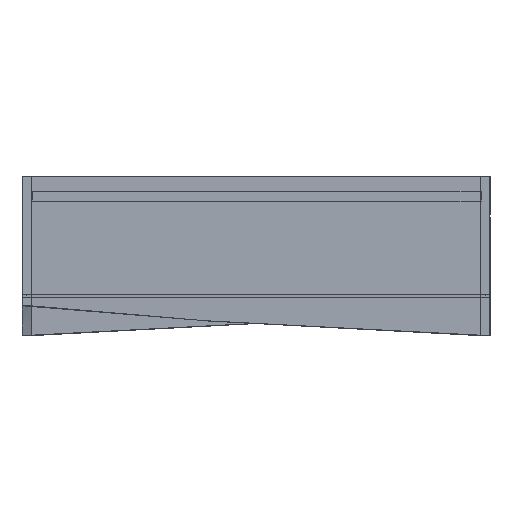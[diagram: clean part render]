
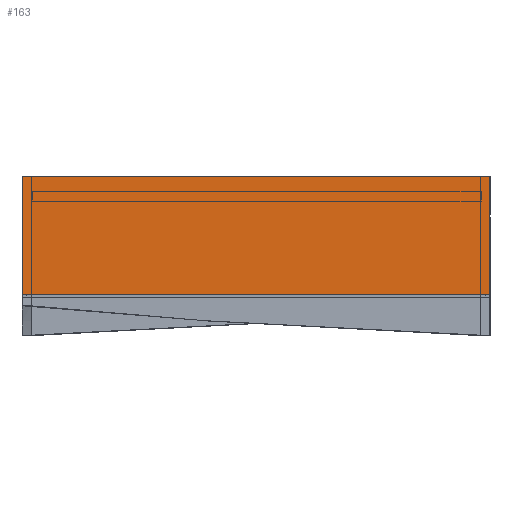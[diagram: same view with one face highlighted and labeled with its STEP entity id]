
A CAD part, left-side view. The second image highlights one B-rep face of the part: STEP entity #163.
In plain terms, the highlighted planar face has unit normal (-1, 0, 0).
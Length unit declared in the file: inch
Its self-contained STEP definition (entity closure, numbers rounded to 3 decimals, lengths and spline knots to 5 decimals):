
#163=ADVANCED_FACE('',(#445),#4399,.T.);
#445=FACE_OUTER_BOUND('',#739,.T.);
#739=EDGE_LOOP('',(#1371,#1372,#1373,#1374));
#1371=ORIENTED_EDGE('',*,*,#2606,.F.);
#1372=ORIENTED_EDGE('',*,*,#2587,.F.);
#1373=ORIENTED_EDGE('',*,*,#2605,.T.);
#1374=ORIENTED_EDGE('',*,*,#2600,.F.);
#2587=EDGE_CURVE('',#3973,#3977,#3307,.T.);
#2600=EDGE_CURVE('',#3984,#3983,#3320,.T.);
#2605=EDGE_CURVE('',#3973,#3983,#3325,.T.);
#2606=EDGE_CURVE('',#3977,#3984,#3326,.T.);
#3307=B_SPLINE_CURVE_WITH_KNOTS('',1,(#5951,#5952),.UNSPECIFIED.,.F.,.F.,
(2,2),(-77.11256,-53.61256),.UNSPECIFIED.);
#3320=B_SPLINE_CURVE_WITH_KNOTS('',1,(#5981,#5982),.UNSPECIFIED.,.F.,.F.,
(2,2),(-47.125,-23.625),.UNSPECIFIED.);
#3325=B_SPLINE_CURVE_WITH_KNOTS('',1,(#5991,#5992),.UNSPECIFIED.,.F.,.F.,
(2,2),(0.,5.9375),.UNSPECIFIED.);
#3326=B_SPLINE_CURVE_WITH_KNOTS('',1,(#5993,#5994),.UNSPECIFIED.,.F.,.F.,
(2,2),(0.,5.9375),.UNSPECIFIED.);
#3973=VERTEX_POINT('',#5925);
#3977=VERTEX_POINT('',#5929);
#3983=VERTEX_POINT('',#5935);
#3984=VERTEX_POINT('',#5936);
#4399=PLANE('',#4772);
#4772=AXIS2_PLACEMENT_3D('',#5921,#5046,$);
#5046=DIRECTION('',(-1.,0.,0.));
#5921=CARTESIAN_POINT('',(4601.35854,-215.35913,252.96414));
#5925=CARTESIAN_POINT('',(4601.35854,-215.35913,252.96414));
#5929=CARTESIAN_POINT('',(4601.35854,-238.85913,252.96414));
#5935=CARTESIAN_POINT('',(4601.35854,-215.35913,247.02664));
#5936=CARTESIAN_POINT('',(4601.35854,-238.85913,247.02664));
#5951=CARTESIAN_POINT('',(4601.35854,-215.35913,252.96414));
#5952=CARTESIAN_POINT('',(4601.35854,-238.85913,252.96414));
#5981=CARTESIAN_POINT('',(4601.35854,-238.85913,247.02664));
#5982=CARTESIAN_POINT('',(4601.35854,-215.35913,247.02664));
#5991=CARTESIAN_POINT('',(4601.35854,-215.35913,252.96414));
#5992=CARTESIAN_POINT('',(4601.35854,-215.35913,247.02664));
#5993=CARTESIAN_POINT('',(4601.35854,-238.85913,252.96414));
#5994=CARTESIAN_POINT('',(4601.35854,-238.85913,247.02664));
